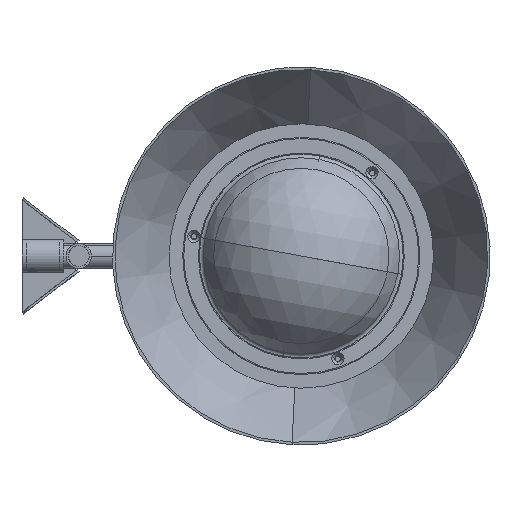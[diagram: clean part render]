
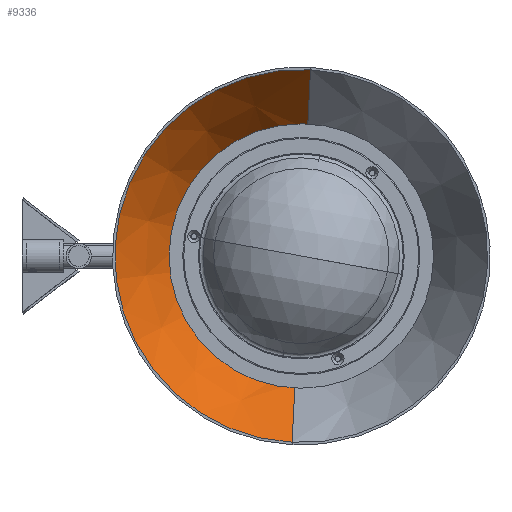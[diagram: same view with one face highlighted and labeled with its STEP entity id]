
A CAD part, front view. The second image highlights one B-rep face of the part: STEP entity #9336.
In plain terms, the highlighted conical face has half-angle 30.964 degrees and reference radius 59.142 mm.
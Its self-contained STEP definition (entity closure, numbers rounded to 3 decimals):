
#189 = VECTOR ( 'NONE', #12607, 1000. ) ;
#1024 = DIRECTION ( 'NONE',  ( -0.025, -0.857, -0.514 ) ) ;
#2969 = EDGE_CURVE ( 'NONE', #12159, #13059, #13037, .T. ) ;
#3192 = CARTESIAN_POINT ( 'NONE',  ( 103.006, -32.942, -60.525 ) ) ;
#3523 = CARTESIAN_POINT ( 'NONE',  ( 106., -32.942, 0. ) ) ;
#3906 = CONICAL_SURFACE ( 'NONE', #11952, 59.143, 0.54 ) ;
#4730 = CARTESIAN_POINT ( 'NONE',  ( 108.922, -30.514, 59.07 ) ) ;
#5346 = DIRECTION ( 'NONE',  ( -0.049, 0., -0.999 ) ) ;
#5457 = CARTESIAN_POINT ( 'NONE',  ( 110.39, -80., 88.725 ) ) ;
#5792 = CARTESIAN_POINT ( 'NONE',  ( 108.994, -32.942, 60.525 ) ) ;
#5920 = EDGE_CURVE ( 'NONE', #15981, #15024, #16817, .T. ) ;
#7094 = ORIENTED_EDGE ( 'NONE', *, *, #7177, .F. ) ;
#7177 = EDGE_CURVE ( 'NONE', #15981, #12159, #13860, .T. ) ;
#7601 = DIRECTION ( 'NONE',  ( -0.049, 0., -0.999 ) ) ;
#7678 = CIRCLE ( 'NONE', #10893, 88.834 ) ;
#8700 = CARTESIAN_POINT ( 'NONE',  ( 103.078, -30.514, -59.07 ) ) ;
#9336 = ADVANCED_FACE ( 'NONE', ( #10814 ), #3906, .F. ) ;
#9436 = ORIENTED_EDGE ( 'NONE', *, *, #5920, .T. ) ;
#9875 = DIRECTION ( 'NONE',  ( 0., -1., 0. ) ) ;
#10635 = AXIS2_PLACEMENT_3D ( 'NONE', #3523, #9875, #5346 ) ;
#10757 = VECTOR ( 'NONE', #1024, 1000. ) ;
#10814 = FACE_OUTER_BOUND ( 'NONE', #16399, .T. ) ;
#10893 = AXIS2_PLACEMENT_3D ( 'NONE', #12141, #19896, #19578 ) ;
#11070 = ORIENTED_EDGE ( 'NONE', *, *, #19232, .F. ) ;
#11952 = AXIS2_PLACEMENT_3D ( 'NONE', #15341, #17145, #7601 ) ;
#12141 = CARTESIAN_POINT ( 'NONE',  ( 106., -80., 0. ) ) ;
#12159 = VERTEX_POINT ( 'NONE', #3192 ) ;
#12607 = DIRECTION ( 'NONE',  ( 0.025, -0.857, 0.514 ) ) ;
#13037 = LINE ( 'NONE', #8700, #10757 ) ;
#13059 = VERTEX_POINT ( 'NONE', #16105 ) ;
#13860 = CIRCLE ( 'NONE', #10635, 60.599 ) ;
#15024 = VERTEX_POINT ( 'NONE', #5457 ) ;
#15341 = CARTESIAN_POINT ( 'NONE',  ( 106., -30.514, 0. ) ) ;
#15981 = VERTEX_POINT ( 'NONE', #5792 ) ;
#16105 = CARTESIAN_POINT ( 'NONE',  ( 101.61, -80., -88.725 ) ) ;
#16399 = EDGE_LOOP ( 'NONE', ( #7094, #9436, #11070, #18262 ) ) ;
#16817 = LINE ( 'NONE', #4730, #189 ) ;
#17145 = DIRECTION ( 'NONE',  ( 0., -1., 0. ) ) ;
#18262 = ORIENTED_EDGE ( 'NONE', *, *, #2969, .F. ) ;
#19232 = EDGE_CURVE ( 'NONE', #13059, #15024, #7678, .T. ) ;
#19578 = DIRECTION ( 'NONE',  ( 0.049, 0., 0.999 ) ) ;
#19896 = DIRECTION ( 'NONE',  ( 0., 1., 0. ) ) ;
